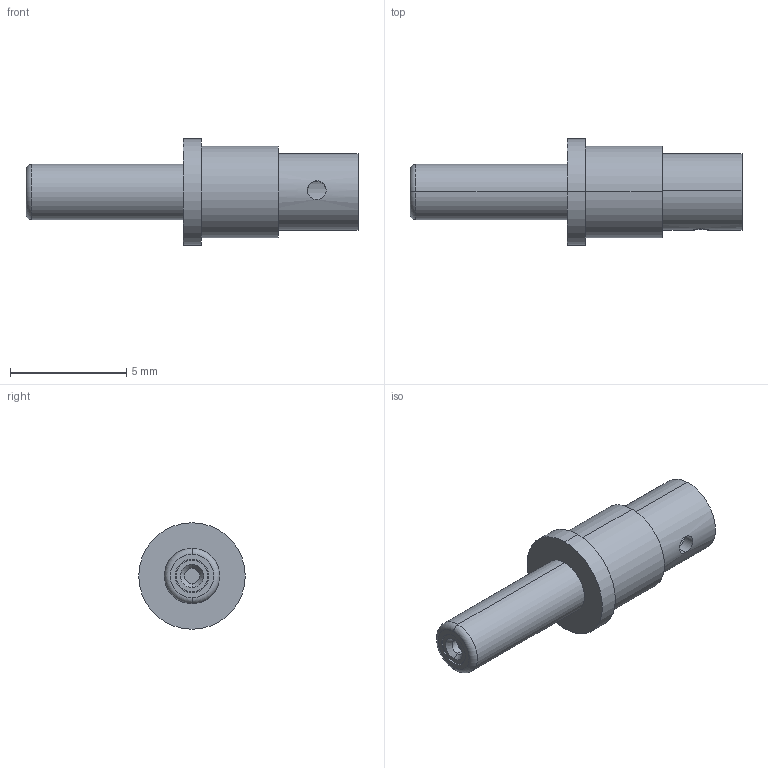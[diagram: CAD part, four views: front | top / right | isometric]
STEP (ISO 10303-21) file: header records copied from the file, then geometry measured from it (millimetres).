
FILE_DESCRIPTION (( 'STEP AP214' ), '1' );
FILE_NAME ('8001-4102.STEP', '2018-11-01T13:25:10', ( '' ), ( '' ), 'SwSTEP 2.0', 'SolidWorks 2016', '' );
FILE_SCHEMA (( 'AUTOMOTIVE_DESIGN' ));
Length unit declared in the file: inch
Products named in the file (1): 8001-4102
Bounding box: 14.3 x 4.58 x 4.58 mm (x, y, z)
Volume: 98.8 mm3; surface area: 201.5 mm2
Topology: 1 solids, 1 shells, 41 faces, 82 edges, 52 vertices
Faces by surface type: cylinder 22, plane 11, cone 6, torus 2
Entity records: 1648 total; most frequent: DIRECTION 212, CARTESIAN_POINT 212, ORIENTED_EDGE 164, AXIS2_PLACEMENT_3D 92, EDGE_CURVE 82, VERTEX_POINT 52, EDGE_LOOP 52, CIRCLE 50
